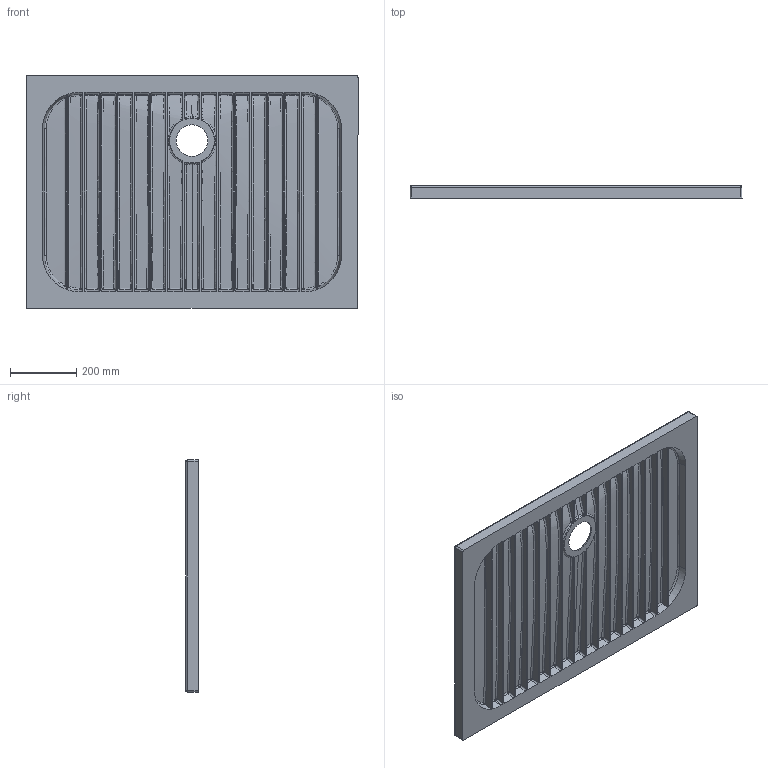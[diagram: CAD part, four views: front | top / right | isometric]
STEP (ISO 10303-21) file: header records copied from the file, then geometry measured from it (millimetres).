
FILE_DESCRIPTION (( 'STEP AP203' ), '1' );
FILE_NAME ('RAPID PD10007040.STEP', '2022-01-19T08:09:52', ( '' ), ( '' ), 'SwSTEP 2.0', 'SolidWorks 2021', '' );
FILE_SCHEMA (( 'CONFIG_CONTROL_DESIGN' ));
Length unit declared in the file: millimetre
Products named in the file (1): RAPID PD10007040
Bounding box: 1001.33 x 38 x 701.33 mm (x, y, z)
Volume: 14027554.2 mm3; surface area: 1832513.4 mm2
Topology: 1 solids, 1 shells, 349 faces, 794 edges, 461 vertices
Faces by surface type: bspline 128, plane 74, sphere 68, cylinder 64, cone 13, torus 2
Entity records: 38497 total; most frequent: CARTESIAN_POINT 31736, ORIENTED_EDGE 1574, DIRECTION 1126, EDGE_CURVE 787, VERTEX_POINT 461, AXIS2_PLACEMENT_3D 459, EDGE_LOOP 372, FACE_OUTER_BOUND 351
